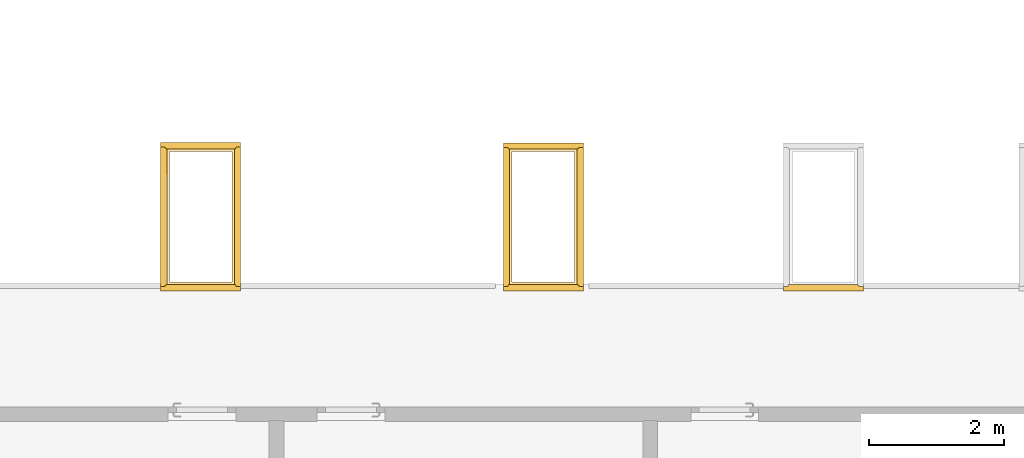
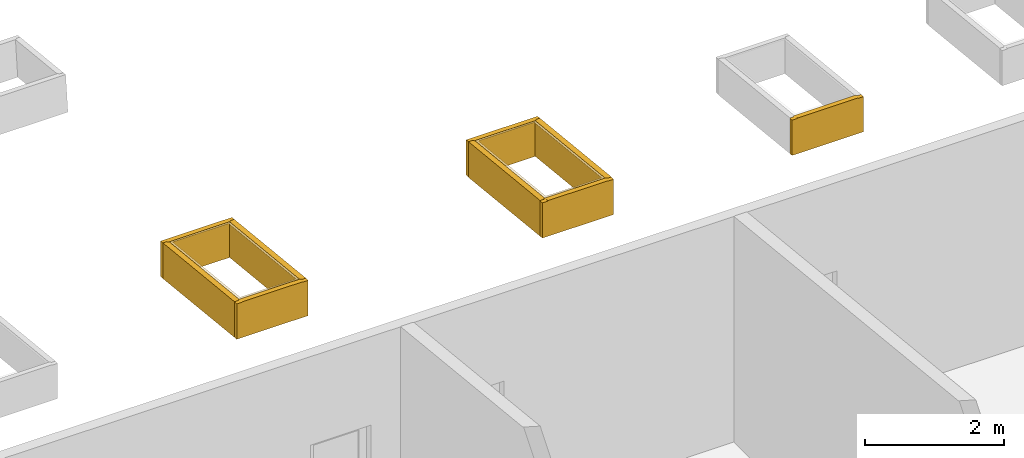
# One storey, part 15 of 23: 11 coverings, 2 openings.
"""IFC2X3 building model written with IfcOpenShell, lengths in millimetres."""

from ifc_helpers import new_model, entity, si_unit, converted_unit, derived_unit, money_unit, direction, frame, origin_with_axes, place, context, subcontext, project, spatial, faceted_brep, material, material_list, type_object, element, save


model = new_model("IFC2X3")

# Units and contexts
model_context = context("Model", 3, precision=0.01, world=origin_with_axes(), true_north=direction((0.0, 1.0)))
body_context = subcontext(model_context, "Body", "Model", "MODEL_VIEW")
ifc_project = project(units=[si_unit("LENGTHUNIT", "METRE", prefix="MILLI"), si_unit("AREAUNIT", "SQUARE_METRE"), si_unit("VOLUMEUNIT", "CUBIC_METRE"), converted_unit("PLANEANGLEUNIT", "DEGREE", entity("IfcPlaneAngleMeasure", 0.0174532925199), si_unit("PLANEANGLEUNIT", "RADIAN"), dimensions=[0, 0, 0, 0, 0, 0, 0]), si_unit("SOLIDANGLEUNIT", "STERADIAN"), money_unit("EUR"), converted_unit("TIMEUNIT", "Year", entity("IfcTimeMeasure", 31556926.0), si_unit("TIMEUNIT", "SECOND"), dimensions=[0, 0, 1, 0, 0, 0, 0]), si_unit("MASSUNIT", "GRAM", prefix="KILO"), si_unit("THERMODYNAMICTEMPERATUREUNIT", "DEGREE_CELSIUS"), si_unit("LUMINOUSINTENSITYUNIT", "LUMEN"), si_unit("ENERGYUNIT", "JOULE", prefix="MEGA"), derived_unit("THERMALCONDUCTANCEUNIT", [(si_unit("POWERUNIT", "WATT"), 1), (si_unit("LENGTHUNIT", "METRE"), -1), (si_unit("THERMODYNAMICTEMPERATUREUNIT", "KELVIN"), -1)]), derived_unit("SPECIFICHEATCAPACITYUNIT", [(si_unit("ENERGYUNIT", "JOULE"), 1), (si_unit("MASSUNIT", "GRAM", prefix="KILO"), -1), (si_unit("THERMODYNAMICTEMPERATUREUNIT", "KELVIN"), -1)]), derived_unit("MASSDENSITYUNIT", [(si_unit("MASSUNIT", "GRAM", prefix="KILO"), 1), (si_unit("VOLUMEUNIT", "CUBIC_METRE"), -1)])], contexts=[model_context])

# Site, building, storey
site_placement = place(None, origin_with_axes())
site = spatial("IfcSite", under=ifc_project, at=site_placement, Name="L.Koidula tn 11b", CompositionType="ELEMENT")
building_placement = place(site_placement, origin_with_axes())
building = spatial("IfcBuilding", under=site, at=building_placement, Name="Rakvere Riigigümnaasium", CompositionType="ELEMENT")
storey_placement = place(building_placement, frame((0.0, 0.0, 7440.0), z_axis=(0.0, 0.0, 1.0), x_axis=(1.0, 0.0, 0.0)))
storey = spatial("IfcBuildingStorey", under=building, at=storey_placement, Name="3.korrus +7,44", CompositionType="ELEMENT", Elevation=7440.0)

# Coverings
ifc_material_1 = material(Name="SKR-02_Kipsplaat")
ifc_material_2 = material(Name="mineraalvill+karkass")
ifc_material_list_1 = material_list([ifc_material_1, ifc_material_1, ifc_material_2])
covering_type_1 = type_object("IfcCoveringType", Name="SA-2xkips 91", PredefinedType="NOTDEFINED")
covering_1_placement = place(storey_placement, frame((65362.0001546, 17094.124777, 2893.27320769), z_axis=(0.0, 0.0, 1.0), x_axis=(-1.0, 0.0, 0.0)))
element("IfcCovering", 1, at=covering_1_placement, inside=storey, type_object=covering_type_1, material=ifc_material_list_1, Name="Ava-pinnakate", PredefinedType="NOTDEFINED", context=body_context, shape_type="Brep", body=[
    faceted_brep([(1012.49818739, -12.5, 633.006772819), (-12.5017888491, -12.5, 633.006772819), (-12.5017888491, -12.5, 9.56941715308), (0.0, -12.5, 9.56941706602), (0.0, -12.5, 8.13180048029), (999.999992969, -12.5, 8.13180048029), (999.999992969, -12.5, 9.56941706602), (1012.49818739, -12.5, 9.56941715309), (-12.5001712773, -1.19603150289, 634.194867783), (1012.49982032, -1.19603150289, 634.194867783), (-12.500000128, 0.0, 634.194867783), (-12.500000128, 0.0, 9.56941715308), (0.0, 0.0, 9.56941706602), (0.0, 0.0, 9.4456034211), (999.999992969, 0.0, 9.4456034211), (999.999992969, 0.0, 9.56941706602), (1012.4999931, 0.0, 9.56941715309), (1012.4999931, 0.0, 634.194867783)], [[[0, 1, 2, 3, 4, 5, 6, 7]], [[8, 1, 0, 9]], [[1, 8, 10, 11, 2]], [[12, 3, 2, 11]], [[12, 13, 4, 3]], [[14, 5, 4, 13]], [[6, 5, 14, 15]], [[6, 15, 16, 7]], [[9, 0, 7, 16, 17]], [[8, 9, 17, 10]], [[15, 14, 13, 12, 11, 10, 17, 16]]]),
    faceted_brep([(1024.9963818, -25.0, 631.692969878), (-25.0035776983, -25.0, 631.692969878), (-25.0035776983, -25.0, 9.56941715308), (0.0, -25.0, 9.56941706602), (0.0, -25.0, 6.81799753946), (999.999992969, -25.0, 6.81799753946), (999.999992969, -25.0, 9.56941706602), (1024.9963818, -25.0, 9.56941715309), (-25.0017889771, -12.5, 633.006772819), (1024.99818752, -12.5, 633.006772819), (-25.0017889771, -12.5, 9.56941715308), (0.0, -12.5, 9.56941706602), (0.0, -12.5, 8.13180048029), (999.999992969, -12.5, 8.13180048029), (999.999992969, -12.5, 9.56941706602), (1024.99818752, -12.5, 9.56941715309)], [[[0, 1, 2, 3, 4, 5, 6, 7]], [[8, 1, 0, 9]], [[1, 8, 10, 2]], [[11, 3, 2, 10]], [[11, 12, 4, 3]], [[13, 5, 4, 12]], [[6, 5, 13, 14]], [[6, 14, 15, 7]], [[9, 0, 7, 15]], [[8, 9, 15, 14, 13, 12, 11, 10]]]),
    faceted_brep([(1090.98684832, -91.0, 624.756090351), (-91.0130193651, -91.0, 624.756090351), (-91.0130193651, -91.0, 9.56941715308), (0.0, -91.0, 9.56941706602), (0.0, -91.0, 0.0), (999.999992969, -91.0, 0.0), (999.999992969, -91.0, 9.56941706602), (1090.98684832, -91.0, 9.56941715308), (-91.0035749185, -25.0, 631.692969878), (1090.99638249, -25.0, 631.692969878), (-91.0035749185, -25.0, 9.56941715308), (0.0, -25.0, 9.56941706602), (0.0, -25.0, 6.81799753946), (0.0, -89.8689134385, 0.0), (999.999992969, -89.8689134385, 0.0), (999.999992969, -25.0, 6.81799753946), (999.999992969, -25.0, 9.56941706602), (1090.99638249, -25.0, 9.56941715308)], [[[0, 1, 2, 3, 4, 5, 6, 7]], [[8, 1, 0, 9]], [[1, 8, 10, 2]], [[11, 3, 2, 10]], [[11, 12, 13, 4, 3]], [[4, 13, 14, 5]], [[5, 14, 15, 16, 6]], [[6, 16, 17, 7]], [[9, 0, 7, 17]], [[8, 9, 17, 16, 15, 12, 11, 10]], [[15, 14, 13, 12]]]),
])
covering_2_placement = place(storey_placement, frame((64361.7105284, 15089.1477977, 3113.51090333), z_axis=(0.0, 0.0, 1.0), x_axis=(1.0, 0.0, 0.0)))
element("IfcCovering", 2, at=covering_2_placement, inside=storey, type_object=covering_type_1, material=ifc_material_list_1, Name="Ava-pinnakate", PredefinedType="NOTDEFINED", context=body_context, shape_type="Brep", body=[
    faceted_brep([(-12.5000001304, 0.0, 624.814452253), (1012.5027187, 0.0, 624.814452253), (1012.5027187, 0.0, 0.0), (-12.5000001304, 0.0, 0.0), (1012.50092998, -12.5, 626.128255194), (-12.5018058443, -12.5, 626.128255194), (1012.50092998, -12.5, 1.25328285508), (1012.5026363, -0.575810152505, 0.0), (-12.5000833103, -0.575810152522, 0.0), (-12.5018058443, -12.5, 1.25328285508)], [[[0, 1, 2, 3]], [[4, 1, 0, 5]], [[1, 4, 6, 7, 2]], [[2, 7, 8, 3]], [[5, 0, 3, 8, 9]], [[4, 5, 9, 6]], [[9, 8, 7, 6]]]),
    faceted_brep([(-25.0018059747, -12.5, 626.128255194), (1025.0009301, -12.5, 626.128255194), (1025.0009301, -12.5, 1.25328285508), (-25.0018059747, -12.5, 1.25328285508), (1024.99998884, -19.0777502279, 626.819604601), (-25.0027561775, -19.077750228, 626.819604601), (0.0, -19.077750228, 626.819604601), (0.0, -25.0, 627.442058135), (1000.00271857, -25.0, 627.442058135), (1000.00271857, -19.077750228, 626.819604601), (1024.99914138, -25.0, 626.819604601), (1024.99914138, -25.0, 2.5670857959), (-25.0036116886, -25.0, 2.5670857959), (-25.0036116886, -25.0, 626.819604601), (0.0, -25.0, 626.819604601), (1000.00271857, -25.0, 626.819604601)], [[[0, 1, 2, 3]], [[4, 1, 0, 5, 6, 7, 8, 9]], [[1, 4, 10, 11, 2]], [[12, 3, 2, 11]], [[5, 0, 3, 12, 13]], [[6, 5, 13, 14]], [[7, 6, 14]], [[8, 7, 14, 13, 12, 11, 10, 15]], [[9, 8, 15]], [[4, 9, 15, 10]]]),
    faceted_brep([(0.0, -25.0, 627.442058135), (1000.00271857, -25.0, 627.442058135), (1000.00271857, -25.0, 626.819604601), (1090.99914421, -25.0, 626.819604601), (1090.99914421, -25.0, 2.5670857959), (-91.0036123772, -25.0, 2.5670857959), (-91.0036123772, -25.0, 626.819604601), (0.0, -25.0, 626.819604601), (1000.00271857, -87.2821648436, 633.988177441), (0.0, -87.2821648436, 633.988177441), (1000.00271857, -91.0, 633.988177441), (1000.00271857, -91.0, 626.819604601), (1090.98969976, -91.0, 626.819604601), (1090.98969976, -91.0, 9.50396532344), (-91.0131465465, -91.0, 9.50396532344), (-91.0131465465, -91.0, 626.819604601), (0.0, -91.0, 626.819604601), (0.0, -91.0, 633.988177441)], [[[0, 1, 2, 3, 4, 5, 6, 7]], [[8, 1, 0, 9]], [[1, 8, 10, 11, 2]], [[2, 11, 12, 3]], [[12, 13, 4, 3]], [[14, 5, 4, 13]], [[6, 5, 14, 15]], [[16, 7, 6, 15]], [[9, 0, 7, 16, 17]], [[8, 9, 17, 10]], [[15, 14, 13, 12, 11, 10, 17, 16]]]),
])
covering_3_placement = place(storey_placement, frame((64362.0001616, 17094.124777, 2902.84262484), z_axis=(0.0, 0.0, 1.0), x_axis=(-0.000144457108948, -0.999999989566, 0.0)))
element("IfcCovering", 3, at=covering_3_placement, inside=storey, type_object=covering_type_1, material=ifc_material_list_1, Name="Ava-pinnakate", PredefinedType="NOTDEFINED", context=body_context, shape_type="Brep", body=[
    faceted_brep([(0.00180464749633, -12.5, 624.751158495), (0.0, -1.29873001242e-07, 624.751158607), (0.0, -1.29873001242e-07, 624.62545063), (0.00180571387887, -12.5, 624.62545063), (2004.97700019, -1.5020873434e-08, 835.482730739), (2004.97880591, -12.5, 835.482730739), (2004.97700019, -1.17546505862e-06, 210.668278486), (2004.97700019, -1.17546505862e-06, 210.6077584), (1.17800898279, -1.02872377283e-07, 0.0), (0.0, -1.02247099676e-07, 0.0), (0.00180571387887, -12.5, 0.0), (1.17981469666, -12.5, 0.0), (2004.97880539, -12.5, 210.607758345), (2004.97880591, -12.5, 210.668278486)], [[[0, 1, 2, 3]], [[4, 1, 0, 5]], [[1, 4, 6, 7, 8, 9, 2]], [[3, 2, 9, 10]], [[5, 0, 3, 10, 11, 12, 13]], [[4, 5, 13, 6]], [[13, 12, 7, 6]], [[12, 11, 8, 7]], [[9, 8, 11, 10]]]),
    faceted_brep([(0.0, -25.0, 624.750779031), (0.0, -12.5, 624.750968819), (0.0, -12.5, 624.62545063), (0.0, -25.0, 624.62545063), (2017.47880604, -12.5, 836.79653368), (2017.48061175, -25.0, 836.79653368), (-12.4981944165, -12.5, 623.437355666), (-1.19422580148, -12.5, 624.62545063), (2017.47880604, -12.5, 211.921561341), (2005.55461607, -12.5, 210.668278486), (2004.97700019, -12.5, 210.668278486), (2004.97700019, -12.5, 210.607568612), (1.17981469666, -12.5, 0.0), (-12.4981944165, -12.5, 0.0), (-1.19242008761, -25.0, 624.62545063), (-12.4963887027, -25.0, 623.437355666), (-12.4963887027, -25.0, 0.0), (1.18162041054, -25.0, 0.0), (2004.97700019, -25.0, 210.607378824), (2004.97700019, -25.0, 210.668278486), (2005.55642178, -25.0, 210.668278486), (2017.48061175, -25.0, 211.921561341)], [[[0, 1, 2, 3]], [[4, 1, 0, 5]], [[6, 7, 2, 1, 4, 8, 9, 10, 11, 12, 13]], [[7, 14, 3, 2]], [[14, 15, 16, 17, 18, 19, 20, 21, 5, 0, 3]], [[4, 5, 21, 8]], [[7, 6, 15, 14]], [[21, 20, 9, 8]], [[10, 9, 20, 19]], [[19, 18, 11, 10]], [[18, 17, 12, 11]], [[13, 12, 17, 16]], [[15, 6, 13, 16]]]),
    faceted_brep([(0.0, -91.0, 624.749776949), (0.0, -25.0, 624.750779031), (0.0, -25.0, 624.62545063), (0.0, -91.0, 624.62545063), (2024.05836205, -25.0, 837.487883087), (2024.06789622, -91.0, 837.487883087), (-24.9963888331, -25.0, 622.123552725), (-1.19242008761, -25.0, 624.62545063), (2029.98061188, -25.0, 837.487883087), (2029.98061188, -25.0, 213.235364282), (2005.55642178, -25.0, 210.668278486), (2004.97700019, -25.0, 210.668278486), (2004.97700019, -25.0, 210.607378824), (1.18162041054, -25.0, 0.0), (-24.9963888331, -25.0, 0.0), (-1.18288591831, -91.0, 624.62545063), (-24.9868546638, -91.0, 622.123552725), (-24.9868546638, -91.0, 0.0), (1.19115457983, -91.0, 0.0), (2004.97700019, -91.0, 210.606376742), (2004.97700019, -91.0, 210.668278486), (2005.56595595, -91.0, 210.668278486), (2029.99014605, -91.0, 213.235364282), (2029.99014605, -91.0, 837.487883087)], [[[0, 1, 2, 3]], [[4, 1, 0, 5]], [[6, 7, 2, 1, 4, 8, 9, 10, 11, 12, 13, 14]], [[7, 15, 3, 2]], [[15, 16, 17, 18, 19, 20, 21, 22, 23, 5, 0, 3]], [[4, 5, 23, 8]], [[7, 6, 16, 15]], [[23, 22, 9, 8]], [[22, 21, 10, 9]], [[11, 10, 21, 20]], [[20, 19, 12, 11]], [[19, 18, 13, 12]], [[14, 13, 18, 17]], [[16, 6, 14, 17]]]),
])
ifc_material_list_2 = material_list([ifc_material_2, ifc_material_1, ifc_material_1])
covering_4_placement = place(storey_placement, frame((65362.0001546, 17094.124777, 2902.84262484), z_axis=(0.0, 0.0, 1.0), x_axis=(-0.000143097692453, -0.999999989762, 0.0)))
element("IfcCovering", 4, at=covering_4_placement, inside=storey, type_object=covering_type_1, material=ifc_material_list_2, Name="Ava-pinnakate", PredefinedType="NOTDEFINED", context=body_context, shape_type="Brep", body=[
    faceted_brep([(0.0, 25.0, 624.751534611), (0.0, 90.9999998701, 624.752527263), (0.0, 90.9999998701, 624.62545063), (0.0, 25.0, 624.62545063), (2024.04172834, 91.0000021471, 837.487883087), (2024.05117278, 25.0, 837.487883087), (-25.0130221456, 90.9999965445, 622.123552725), (-1.20905340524, 90.9999997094, 624.62545063), (2029.96397817, 91.0000021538, 837.487883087), (2029.96397817, 91.0000021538, 213.235364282), (2005.53978807, 90.9999988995, 210.668278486), (2004.9769998, 90.9999988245, 210.668278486), (2004.9769998, 90.9999988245, 210.609127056), (1.16498709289, 90.9999965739, 0.0), (-25.0130221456, 90.9999965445, 0.0), (-1.19960895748, 25.0, 624.62545063), (-25.0035776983, 25.0, 622.123552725), (-25.0035776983, 25.0, 0.0), (1.1744315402, 25.0, 0.0), (2004.9769998, 25.0, 210.608134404), (2004.9769998, 25.0, 210.668278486), (2005.54923252, 25.0, 210.668278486), (2029.97342262, 25.0, 213.235364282), (2029.97342262, 25.0, 837.487883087)], [[[0, 1, 2, 3]], [[4, 1, 0, 5]], [[6, 7, 2, 1, 4, 8, 9, 10, 11, 12, 13, 14]], [[7, 15, 3, 2]], [[15, 16, 17, 18, 19, 20, 21, 22, 23, 5, 0, 3]], [[4, 5, 23, 8]], [[7, 6, 16, 15]], [[23, 22, 9, 8]], [[22, 21, 10, 9]], [[11, 10, 21, 20]], [[20, 19, 12, 11]], [[19, 18, 13, 12]], [[14, 13, 18, 17]], [[16, 6, 14, 17]]]),
    faceted_brep([(0.0, 12.5, 624.751346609), (0.0, 25.0, 624.751534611), (0.0, 25.0, 624.62545063), (0.0, 12.5, 624.62545063), (2017.47342249, 25.0, 836.79653368), (2017.47521121, 12.5, 836.79653368), (-12.5035775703, 25.0, 623.437355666), (-1.19960895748, 25.0, 624.62545063), (2017.47342249, 25.0, 211.921561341), (2005.54923252, 25.0, 210.668278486), (2004.9769998, 25.0, 210.668278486), (2004.9769998, 25.0, 210.608134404), (1.1744315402, 25.0, 0.0), (-12.5035775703, 25.0, 0.0), (-1.19782023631, 12.5, 624.62545063), (-12.5017888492, 12.5, 623.437355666), (-12.5017888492, 12.5, 0.0), (1.17622026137, 12.5, 0.0), (2004.9769998, 12.5, 210.607946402), (2004.9769998, 12.5, 210.668278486), (2005.55102124, 12.5, 210.668278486), (2017.47521121, 12.5, 211.921561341)], [[[0, 1, 2, 3]], [[4, 1, 0, 5]], [[6, 7, 2, 1, 4, 8, 9, 10, 11, 12, 13]], [[7, 14, 3, 2]], [[14, 15, 16, 17, 18, 19, 20, 21, 5, 0, 3]], [[4, 5, 21, 8]], [[7, 6, 15, 14]], [[21, 20, 9, 8]], [[10, 9, 20, 19]], [[19, 18, 11, 10]], [[18, 17, 12, 11]], [[13, 12, 17, 16]], [[15, 6, 13, 16]]]),
    faceted_brep([(0.0, 0.0, 624.751158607), (0.0, 12.5, 624.751346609), (0.0, 12.5, 624.62545063), (0.0, 0.0, 624.62545063), (2004.9752168, 12.5, 835.48273134), (2004.9769998, 0.0, 835.482730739), (2004.9769998, 12.5, 210.668278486), (2004.9769998, 12.5, 210.607946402), (1.17622026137, 12.5, 0.0), (-0.00178872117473, 12.5, 0.0), (0.0, 0.0, 0.0), (1.17800898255, 0.0, 0.0), (2004.9769998, 0.0, 210.6077584), (2004.9769998, 0.0, 210.668278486)], [[[0, 1, 2, 3]], [[4, 1, 0, 5]], [[1, 4, 6, 7, 8, 9, 2]], [[10, 3, 2, 9]], [[5, 0, 3, 10, 11, 12, 13]], [[4, 5, 13, 6]], [[13, 12, 7, 6]], [[12, 11, 8, 7]], [[9, 8, 11, 10]]]),
])
covering_5_placement = place(storey_placement, frame((68497.788209, 15088.5503119, 3113.51090333), z_axis=(0.0, 0.0, 1.0), x_axis=(1.0, 0.0, 0.0)))
element("IfcCovering", 5, at=covering_5_placement, inside=storey, type_object=covering_type_1, material=ifc_material_list_1, Name="Ava-pinnakate", PredefinedType="NOTDEFINED", context=body_context, shape_type="Brep", body=[
    faceted_brep([(-12.5000001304, 7.33887617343e-07, 624.877250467), (1012.5027187, 7.33887617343e-07, 624.877250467), (1012.5027187, 0.000236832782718, 0.00225331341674), (-12.5000001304, 0.000236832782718, 0.00225331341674), (1012.50092998, -12.5, 626.191053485), (-12.5018058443, -12.5, 626.191053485), (1012.50092998, -12.5, 1.31608114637), (-12.5018058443, -12.5, 1.31608114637)], [[[0, 1, 2, 3]], [[4, 1, 0, 5]], [[1, 4, 6, 2]], [[7, 3, 2, 6]], [[5, 0, 3, 7]], [[4, 5, 7, 6]]]),
    faceted_brep([(-25.0018059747, -12.5, 626.191053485), (1025.0009301, -12.5, 626.191053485), (1025.0009301, -12.5, 1.31608114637), (-25.0018059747, -12.5, 1.31608114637), (1025.00007434, -18.4802643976, 626.819604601), (-25.0026698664, -18.4802643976, 626.819604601), (0.0, -18.4802643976, 626.819604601), (0.0, -25.0, 627.504856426), (1000.00271857, -25.0, 627.504856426), (1000.00271857, -18.4802643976, 626.819604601), (1024.99914138, -25.0, 626.819604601), (1024.99914138, -25.0, 2.62988408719), (-25.0036116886, -25.0, 2.62988408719), (-25.0036116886, -25.0, 626.819604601), (0.0, -25.0, 626.819604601), (1000.00271857, -25.0, 626.819604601)], [[[0, 1, 2, 3]], [[4, 1, 0, 5, 6, 7, 8, 9]], [[1, 4, 10, 11, 2]], [[12, 3, 2, 11]], [[5, 0, 3, 12, 13]], [[6, 5, 13, 14]], [[7, 6, 14]], [[8, 7, 14, 13, 12, 11, 10, 15]], [[9, 8, 15]], [[4, 9, 15, 10]]]),
    faceted_brep([(0.0, -25.0, 627.504856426), (1000.00271857, -25.0, 627.504856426), (1000.00271857, -25.0, 626.819604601), (1090.99914421, -25.0, 626.819604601), (1090.99914421, -25.0, 2.62988408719), (-91.0036123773, -25.0, 2.62988408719), (-91.0036123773, -25.0, 626.819604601), (0.0, -25.0, 626.819604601), (1000.00271857, -86.6846790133, 633.988177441), (0.0, -86.6846790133, 633.988177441), (1000.00271857, -91.0, 633.988177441), (1000.00271857, -91.0, 626.819604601), (1090.98969977, -91.0, 626.819604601), (1090.98969977, -91.0, 9.56676361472), (-91.0131465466, -91.0, 9.56676361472), (-91.0131465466, -91.0, 626.819604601), (0.0, -91.0, 626.819604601), (0.0, -91.0, 633.988177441)], [[[0, 1, 2, 3, 4, 5, 6, 7]], [[8, 1, 0, 9]], [[1, 8, 10, 11, 2]], [[2, 11, 12, 3]], [[12, 13, 4, 3]], [[14, 5, 4, 13]], [[6, 5, 14, 15]], [[16, 7, 6, 15]], [[9, 0, 7, 16, 17]], [[8, 9, 17, 10]], [[15, 14, 13, 12, 11, 10, 17, 16]]]),
])
covering_6_placement = place(storey_placement, frame((60299.8093895, 17095.4555095, 2893.27320769), z_axis=(0.0, 0.0, 1.0), x_axis=(-1.0, 0.0, 0.0)))
element("IfcCovering", 6, at=covering_6_placement, inside=storey, type_object=covering_type_1, material=ifc_material_list_1, Name="Ava-pinnakate", PredefinedType="NOTDEFINED", context=body_context, shape_type="Brep", body=[
    faceted_brep([(1012.49818739, -12.5, 632.866907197), (-12.5017888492, -12.5, 632.866907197), (-12.5017888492, -12.5, 9.56941715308), (0.0, -12.5, 9.56941706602), (0.0, -12.5, 7.9919348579), (999.999992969, -12.5, 7.9919348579), (999.999992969, -12.5, 9.56941706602), (1012.49818739, -12.5, 9.56941715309), (-12.500000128, 0.0, 634.180710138), (1012.4999931, 0.0, 634.180710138), (-12.500000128, 0.0, 9.56941715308), (0.0, 0.0, 9.56941706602), (0.0, 0.0, 9.30573779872), (999.999992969, 0.0, 9.30573779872), (999.999992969, 0.0, 9.56941706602), (1012.4999931, 0.0, 9.56941715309)], [[[0, 1, 2, 3, 4, 5, 6, 7]], [[8, 1, 0, 9]], [[1, 8, 10, 2]], [[11, 3, 2, 10]], [[11, 12, 4, 3]], [[13, 5, 4, 12]], [[6, 5, 13, 14]], [[6, 14, 15, 7]], [[9, 0, 7, 15]], [[8, 9, 15, 14, 13, 12, 11, 10]]]),
    faceted_brep([(1024.9963818, -25.0, 631.553104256), (-25.0035776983, -25.0, 631.553104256), (-25.0035776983, -25.0, 9.56941715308), (0.0, -25.0, 9.56941706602), (0.0, -25.0, 6.67813191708), (999.999992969, -25.0, 6.67813191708), (999.999992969, -25.0, 9.56941706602), (1024.9963818, -25.0, 9.56941715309), (-25.0017889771, -12.5, 632.866907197), (1024.99818752, -12.5, 632.866907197), (-25.0017889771, -12.5, 9.56941715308), (0.0, -12.5, 9.56941706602), (0.0, -12.5, 7.9919348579), (999.999992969, -12.5, 7.9919348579), (999.999992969, -12.5, 9.56941706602), (1024.99818752, -12.5, 9.56941715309)], [[[0, 1, 2, 3, 4, 5, 6, 7]], [[8, 1, 0, 9]], [[1, 8, 10, 2]], [[11, 3, 2, 10]], [[11, 12, 4, 3]], [[13, 5, 4, 12]], [[6, 5, 13, 14]], [[6, 14, 15, 7]], [[9, 0, 7, 15]], [[8, 9, 15, 14, 13, 12, 11, 10]]]),
    faceted_brep([(1090.98684832, -91.0, 624.616224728), (-91.0130193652, -91.0, 624.616224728), (-91.0130193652, -91.0, 9.56941715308), (0.0, -91.0, 9.56941706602), (0.0, -91.0, 0.0), (999.999992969, -91.0, 0.0), (999.999992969, -91.0, 9.56941706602), (1090.98684832, -91.0, 9.56941715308), (-91.0035749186, -25.0, 631.553104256), (1090.99638249, -25.0, 631.553104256), (-91.0035749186, -25.0, 9.56941715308), (0.0, -25.0, 9.56941706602), (0.0, -25.0, 6.67813191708), (0.0, -88.5381809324, 0.0), (999.999992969, -88.5381809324, 0.0), (999.999992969, -25.0, 6.67813191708), (999.999992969, -25.0, 9.56941706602), (1090.99638249, -25.0, 9.56941715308)], [[[0, 1, 2, 3, 4, 5, 6, 7]], [[8, 1, 0, 9]], [[1, 8, 10, 2]], [[11, 3, 2, 10]], [[11, 12, 13, 4, 3]], [[4, 13, 14, 5]], [[5, 14, 15, 16, 6]], [[6, 16, 17, 7]], [[9, 0, 7, 17]], [[8, 9, 17, 16, 15, 12, 11, 10]], [[15, 14, 13, 12]]]),
])
covering_7_placement = place(storey_placement, frame((59299.5197634, 15090.4785302, 3113.51090333), z_axis=(0.0, 0.0, 1.0), x_axis=(1.0, 0.0, 0.0)))
element("IfcCovering", 7, at=covering_7_placement, inside=storey, type_object=covering_type_1, material=ifc_material_list_1, Name="Ava-pinnakate", PredefinedType="NOTDEFINED", context=body_context, shape_type="Brep", body=[
    faceted_brep([(-12.5000001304, 0.0, 624.674586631), (1012.5027187, 0.0, 624.674586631), (1012.5027187, 0.0, 0.0), (-12.5000001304, 0.0, 0.0), (1012.50092998, -12.5, 625.988389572), (-12.5018058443, -12.5, 625.988389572), (1012.50092998, -12.5, 1.1134172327), (1012.50244587, -1.90654265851, 0.0), (-12.5002755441, -1.90654265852, 0.0), (-12.5018058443, -12.5, 1.1134172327)], [[[0, 1, 2, 3]], [[4, 1, 0, 5]], [[1, 4, 6, 7, 2]], [[2, 7, 8, 3]], [[5, 0, 3, 8, 9]], [[4, 5, 9, 6]], [[9, 8, 7, 6]]]),
    faceted_brep([(-25.0018059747, -12.5, 625.988389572), (1025.0009301, -12.5, 625.988389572), (1025.0009301, -12.5, 1.1134172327), (-25.0018059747, -12.5, 1.1134172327), (1024.99979842, -20.408482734, 626.819604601), (-25.0029484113, -20.408482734, 626.819604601), (0.0, -20.408482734, 626.819604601), (0.0, -25.0, 627.302192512), (1000.00271857, -25.0, 627.302192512), (1000.00271857, -20.408482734, 626.819604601), (1024.99914138, -25.0, 626.819604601), (1024.99914138, -25.0, 2.42722017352), (-25.0036116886, -25.0, 2.42722017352), (-25.0036116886, -25.0, 626.819604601), (0.0, -25.0, 626.819604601), (1000.00271857, -25.0, 626.819604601)], [[[0, 1, 2, 3]], [[4, 1, 0, 5, 6, 7, 8, 9]], [[1, 4, 10, 11, 2]], [[12, 3, 2, 11]], [[5, 0, 3, 12, 13]], [[6, 5, 13, 14]], [[7, 6, 14]], [[8, 7, 14, 13, 12, 11, 10, 15]], [[9, 8, 15]], [[4, 9, 15, 10]]]),
    faceted_brep([(0.0, -25.0, 627.302192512), (1000.00271857, -25.0, 627.302192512), (1000.00271857, -25.0, 626.819604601), (1090.99914421, -25.0, 626.819604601), (1090.99914421, -25.0, 2.42722017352), (-91.0036123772, -25.0, 2.42722017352), (-91.0036123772, -25.0, 626.819604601), (0.0, -25.0, 626.819604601), (1000.00271857, -88.6128973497, 633.988177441), (0.0, -88.6128973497, 633.988177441), (1000.00271857, -91.0, 633.988177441), (1000.00271857, -91.0, 626.819604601), (1090.98969977, -91.0, 626.819604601), (1090.98969977, -91.0, 9.36409970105), (-91.0131465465, -91.0, 9.36409970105), (-91.0131465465, -91.0, 626.819604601), (0.0, -91.0, 626.819604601), (0.0, -91.0, 633.988177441)], [[[0, 1, 2, 3, 4, 5, 6, 7]], [[8, 1, 0, 9]], [[1, 8, 10, 11, 2]], [[2, 11, 12, 3]], [[12, 13, 4, 3]], [[14, 5, 4, 13]], [[6, 5, 14, 15]], [[16, 7, 6, 15]], [[9, 0, 7, 16, 17]], [[8, 9, 17, 10]], [[15, 14, 13, 12, 11, 10, 17, 16]]]),
])
covering_8_placement = place(storey_placement, frame((59299.8093966, 17095.4555095, 2902.84262484), z_axis=(0.0, 0.0, 1.0), x_axis=(-0.000144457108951, -0.999999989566, 0.0)))
element("IfcCovering", 8, at=covering_8_placement, inside=storey, type_object=covering_type_1, material=ifc_material_list_1, Name="Ava-pinnakate", PredefinedType="NOTDEFINED", context=body_context, shape_type="Brep", body=[
    faceted_brep([(0.00180571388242, -12.5, 624.611292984), (0.0, -1.29865895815e-07, 624.611292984), (0.0, -1.02239994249e-07, 0.0), (0.00180571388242, -12.5, 0.0), (2004.97700019, -1.52837742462e-08, 835.342865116), (2004.97880591, -12.5, 835.342865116), (2004.97700019, -1.1754579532e-06, 210.668278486), (2004.97700019, -1.1754579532e-06, 210.467892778), (2.50874150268, -1.03582920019e-07, 0.0), (2.51054721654, -12.5, 0.0), (2004.97880419, -12.5, 210.467892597), (2004.97880591, -12.5, 210.668278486)], [[[0, 1, 2, 3]], [[4, 1, 0, 5]], [[1, 4, 6, 7, 8, 2]], [[2, 8, 9, 3]], [[5, 0, 3, 9, 10, 11]], [[4, 5, 11, 6]], [[11, 10, 7, 6]], [[10, 9, 8, 7]]]),
    faceted_brep([(-12.4963887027, -25.0, 623.297490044), (-12.4981944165, -12.5, 623.297490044), (-12.4981944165, -12.5, 0.0), (-12.4963887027, -25.0, 0.0), (2017.47880604, -12.5, 836.656668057), (2017.48061175, -25.0, 836.656668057), (2017.47880604, -12.5, 211.781695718), (2006.88534859, -12.5, 210.668278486), (2004.97700019, -12.5, 210.668278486), (2004.97700019, -12.5, 210.467702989), (2.51054721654, -12.5, 0.0), (2.51235293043, -25.0, 0.0), (2004.97700019, -25.0, 210.467513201), (2004.97700019, -25.0, 210.668278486), (2006.8871543, -25.0, 210.668278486), (2017.48061175, -25.0, 211.781695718)], [[[0, 1, 2, 3]], [[4, 1, 0, 5]], [[1, 4, 6, 7, 8, 9, 10, 2]], [[2, 10, 11, 3]], [[5, 0, 3, 11, 12, 13, 14, 15]], [[4, 5, 15, 6]], [[15, 14, 7, 6]], [[8, 7, 14, 13]], [[13, 12, 9, 8]], [[12, 11, 10, 9]]]),
    faceted_brep([(-24.9868546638, -91.0, 621.983687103), (-24.9963888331, -25.0, 621.983687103), (-24.9963888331, -25.0, 0.0), (-24.9868546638, -91.0, 0.0), (2025.38909457, -25.0, 837.487883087), (2025.39862874, -91.0, 837.487883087), (2029.98061188, -25.0, 837.487883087), (2029.98061188, -25.0, 213.095498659), (2006.8871543, -25.0, 210.668278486), (2004.97700019, -25.0, 210.668278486), (2004.97700019, -25.0, 210.467513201), (2.51235293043, -25.0, 0.0), (2.52188709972, -91.0, 0.0), (2004.97700019, -91.0, 210.46651112), (2004.97700019, -91.0, 210.668278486), (2006.89668847, -91.0, 210.668278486), (2029.99014605, -91.0, 213.095498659), (2029.99014605, -91.0, 837.487883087)], [[[0, 1, 2, 3]], [[4, 1, 0, 5]], [[1, 4, 6, 7, 8, 9, 10, 11, 2]], [[2, 11, 12, 3]], [[5, 0, 3, 12, 13, 14, 15, 16, 17]], [[4, 5, 17, 6]], [[17, 16, 7, 6]], [[16, 15, 8, 7]], [[9, 8, 15, 14]], [[14, 13, 10, 9]], [[13, 12, 11, 10]]]),
])
covering_9_placement = place(storey_placement, frame((60299.8093895, 17095.4555095, 2902.84262484), z_axis=(0.0, 0.0, 1.0), x_axis=(-0.00014309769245, -0.999999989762, 0.0)))
element("IfcCovering", 9, at=covering_9_placement, inside=storey, type_object=covering_type_1, material=ifc_material_list_2, Name="Ava-pinnakate", PredefinedType="NOTDEFINED", context=body_context, shape_type="Brep", body=[
    faceted_brep([(-25.0035776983, 25.0, 621.983687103), (-25.0130221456, 90.9999965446, 621.983687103), (-25.0130221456, 90.9999965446, 0.0), (-25.0035776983, 25.0, 0.0), (2025.37246086, 91.0000021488, 837.487883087), (2025.3819053, 25.0, 837.487883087), (2029.96397817, 91.000002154, 837.487883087), (2029.96397817, 91.000002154, 213.095498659), (2006.87052059, 90.9999990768, 210.668278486), (2004.9769998, 90.9999988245, 210.668278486), (2004.9769998, 90.9999988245, 210.469261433), (2.49571961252, 90.9999965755, 0.0), (2.50516405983, 25.0, 0.0), (2004.9769998, 25.0, 210.468268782), (2004.9769998, 25.0, 210.668278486), (2006.87996504, 25.0, 210.668278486), (2029.97342262, 25.0, 213.095498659), (2029.97342262, 25.0, 837.487883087)], [[[0, 1, 2, 3]], [[4, 1, 0, 5]], [[1, 4, 6, 7, 8, 9, 10, 11, 2]], [[2, 11, 12, 3]], [[5, 0, 3, 12, 13, 14, 15, 16, 17]], [[4, 5, 17, 6]], [[17, 16, 7, 6]], [[16, 15, 8, 7]], [[9, 8, 15, 14]], [[14, 13, 10, 9]], [[13, 12, 11, 10]]]),
    faceted_brep([(-12.5017888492, 12.5, 623.297490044), (-12.5035775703, 25.0, 623.297490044), (-12.5035775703, 25.0, 0.0), (-12.5017888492, 12.5, 0.0), (2017.47342249, 25.0, 836.656668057), (2017.47521121, 12.5, 836.656668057), (2017.47342249, 25.0, 211.781695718), (2006.87996504, 25.0, 210.668278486), (2004.9769998, 25.0, 210.668278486), (2004.9769998, 25.0, 210.468268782), (2.50516405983, 25.0, 0.0), (2.506952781, 12.5, 0.0), (2004.9769998, 12.5, 210.46808078), (2004.9769998, 12.5, 210.668278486), (2006.88175376, 12.5, 210.668278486), (2017.47521121, 12.5, 211.781695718)], [[[0, 1, 2, 3]], [[4, 1, 0, 5]], [[1, 4, 6, 7, 8, 9, 10, 2]], [[2, 10, 11, 3]], [[5, 0, 3, 11, 12, 13, 14, 15]], [[4, 5, 15, 6]], [[15, 14, 7, 6]], [[8, 7, 14, 13]], [[13, 12, 9, 8]], [[12, 11, 10, 9]]]),
    faceted_brep([(0.0, 0.0, 624.611292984), (-4.00035560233e-08, 12.5, 624.611480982), (-0.00178872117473, 12.5, 0.0), (0.0, 0.0, 0.0), (2004.9752172, 12.5, 835.34286576), (2004.9769998, 0.0, 835.342865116), (2004.9769998, 12.5, 210.668278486), (2004.9769998, 12.5, 210.46808078), (2.506952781, 12.5, 0.0), (2.50874150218, 0.0, 0.0), (2004.9769998, 0.0, 210.467892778), (2004.9769998, 0.0, 210.668278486)], [[[0, 1, 2, 3]], [[4, 1, 0, 5]], [[1, 4, 6, 7, 8, 2]], [[2, 8, 9, 3]], [[5, 0, 3, 9, 10, 11]], [[4, 5, 11, 6]], [[11, 10, 7, 6]], [[10, 9, 8, 7]]]),
])

# Covering, opening
ifc_material_3 = material(Name="Teras")
covering_type_2 = type_object("IfcCoveringType", Name="Teras 5", PredefinedType="NOTDEFINED")
covering_10_placement = place(storey_placement, frame((64457.9993377, 15726.7639501, 3666.4187087), z_axis=(0.0, 0.0, 1.0), x_axis=(1.0, 0.0, 0.0)))
covering_10 = element("IfcCovering", 10, at=covering_10_placement, inside=storey, type_object=covering_type_2, material=ifc_material_3, Name="Katuseakna terasraam", PredefinedType="NOTDEFINED", context=body_context, shape_type="Brep", body=[
    faceted_brep([(-95.9988153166, -637.616152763, 67.0161582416), (-95.9988153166, 1367.36082717, -143.715413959), (903.997966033, 1367.36082717, -143.715413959), (903.997966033, -637.616152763, 67.0161582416), (-56.0869676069, -598.056204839, 62.8582401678), (863.913032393, -598.056204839, 62.8582401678), (863.913032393, 1327.33818459, -139.508864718), (-56.0869676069, 1327.33818459, -139.508864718), (-95.998814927, 1367.3608269, -138.687872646), (-95.998814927, -637.616152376, 72.0436994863), (903.997965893, 1367.3608269, -138.687872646), (903.997965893, -637.616152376, 72.0436994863), (-56.0869676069, -597.533562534, 67.8308495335), (863.913032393, -597.533562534, 67.8308495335), (863.913032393, 1327.8608269, -134.536255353), (-56.0869676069, 1327.8608269, -134.536255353)], [[[0, 1, 2, 3], [4, 5, 6, 7]], [[8, 1, 0, 9]], [[10, 2, 1, 8]], [[11, 3, 2, 10]], [[9, 0, 3, 11]], [[12, 13, 5, 4]], [[13, 14, 6, 5]], [[14, 15, 7, 6]], [[15, 12, 4, 7]], [[11, 10, 8, 9], [12, 15, 14, 13]]]),
])
opening_1_placement = place(covering_10_placement, frame((403.913032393, 1327.8608269, 3531.88245335), z_axis=(0.0, 0.0, 1.0), x_axis=(1.0, 0.0, 0.0)))
element("IfcOpeningElement", 11, at=opening_1_placement, cuts=covering_10, Name="Ava ripplaes", context=body_context, shape_type="Brep", body=[
    faceted_brep([(460.0, -1925.28986097, -3463.05708192), (-460.0, -1925.28986097, -3463.05708192), (-460.0, -1926.02156021, -3470.01873519), (460.0, -1926.02156021, -3470.01873519), (460.0, 0.104528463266, -3665.42418681), (-460.0, 0.104528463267, -3665.42418681), (-460.0, -0.627170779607, -3672.38584008), (460.0, -0.627170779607, -3672.38584008)], [[[0, 1, 2, 3]], [[0, 4, 5, 1]], [[1, 5, 6, 2]], [[3, 2, 6, 7]], [[4, 0, 3, 7]], [[5, 4, 7, 6]]]),
])

covering_11_placement = place(storey_placement, frame((59395.8085726, 15728.0946826, 3666.4187087), z_axis=(0.0, 0.0, 1.0), x_axis=(1.0, 0.0, 0.0)))
covering_11 = element("IfcCovering", 12, at=covering_11_placement, inside=storey, type_object=covering_type_2, material=ifc_material_3, Name="Katuseakna terasraam", PredefinedType="NOTDEFINED", context=body_context, shape_type="Brep", body=[
    faceted_brep([(-95.9988153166, -637.616152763, 67.0161582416), (-95.9988153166, 1367.36082717, -143.715413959), (903.997966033, 1367.36082717, -143.715413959), (903.997966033, -637.616152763, 67.0161582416), (-56.0869676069, -598.056204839, 62.8582401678), (863.913032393, -598.056204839, 62.8582401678), (863.913032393, 1327.33818459, -139.508864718), (-56.0869676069, 1327.33818459, -139.508864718), (-95.998814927, 1367.3608269, -138.687872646), (-95.998814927, -637.616152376, 72.0436994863), (903.997965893, 1367.3608269, -138.687872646), (903.997965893, -637.616152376, 72.0436994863), (-56.0869676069, -597.533562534, 67.8308495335), (863.913032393, -597.533562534, 67.8308495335), (863.913032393, 1327.8608269, -134.536255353), (-56.0869676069, 1327.8608269, -134.536255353)], [[[0, 1, 2, 3], [4, 5, 6, 7]], [[8, 1, 0, 9]], [[10, 2, 1, 8]], [[11, 3, 2, 10]], [[9, 0, 3, 11]], [[12, 13, 5, 4]], [[13, 14, 6, 5]], [[14, 15, 7, 6]], [[15, 12, 4, 7]], [[11, 10, 8, 9], [12, 15, 14, 13]]]),
])
opening_2_placement = place(covering_11_placement, frame((403.913032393, 1327.8608269, 3531.88245335), z_axis=(0.0, 0.0, 1.0), x_axis=(1.0, 0.0, 0.0)))
element("IfcOpeningElement", 13, at=opening_2_placement, cuts=covering_11, Name="Ava ripplaes", context=body_context, shape_type="Brep", body=[
    faceted_brep([(460.0, -1925.28986097, -3463.05708192), (-460.0, -1925.28986097, -3463.05708192), (-460.0, -1926.02156021, -3470.01873519), (460.0, -1926.02156021, -3470.01873519), (460.0, 0.104528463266, -3665.42418681), (-460.0, 0.104528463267, -3665.42418681), (-460.0, -0.627170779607, -3672.38584008), (460.0, -0.627170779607, -3672.38584008)], [[[0, 1, 2, 3]], [[0, 4, 5, 1]], [[1, 5, 6, 2]], [[3, 2, 6, 7]], [[4, 0, 3, 7]], [[5, 4, 7, 6]]]),
])

save(model, "model.ifc")
